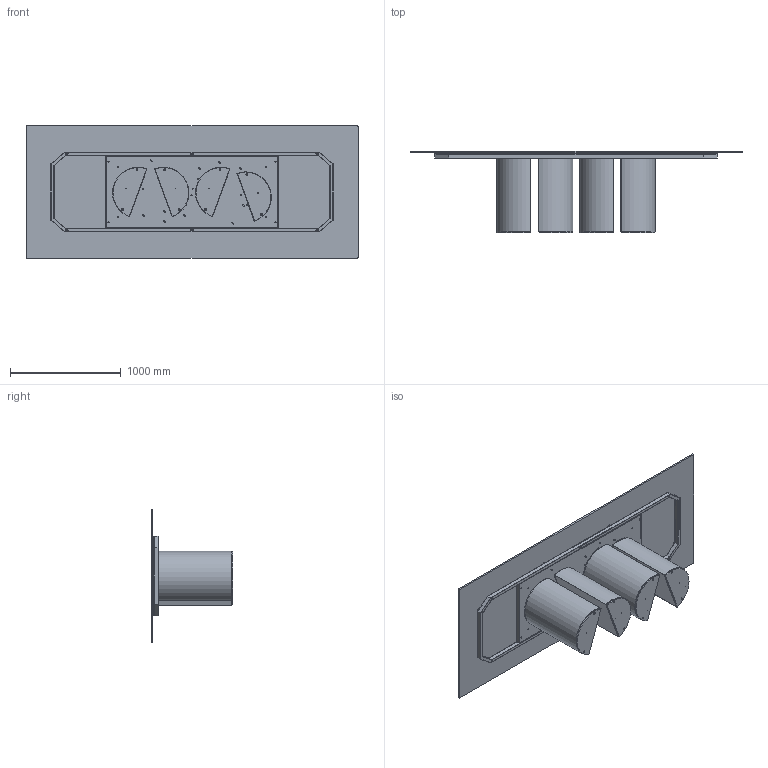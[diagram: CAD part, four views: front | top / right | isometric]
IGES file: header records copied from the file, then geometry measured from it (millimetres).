
Start section: SolidWorks IGES file using analytic representation for surfaces
Global section: file name: Y:\eforma\TECNICO\SOLIDWORKS\E-FORMA\1-TAVOLI\PLAI\02 parts\PL24G.IGS; native system: SolidWorks 2022; preprocessor: SolidWorks 2022; author: eforma.tech; date: 240807.155704; units: millimetre
Bounding box: 3000 x 739 x 1200 mm (x, y, z)
Volume: 71430483.5 mm3; surface area: 19069099.6 mm2
Topology: 63 solids, 63 shells, 1340 faces, 3044 edges, 1800 vertices
Faces by surface type: revolution 768, plane 572
